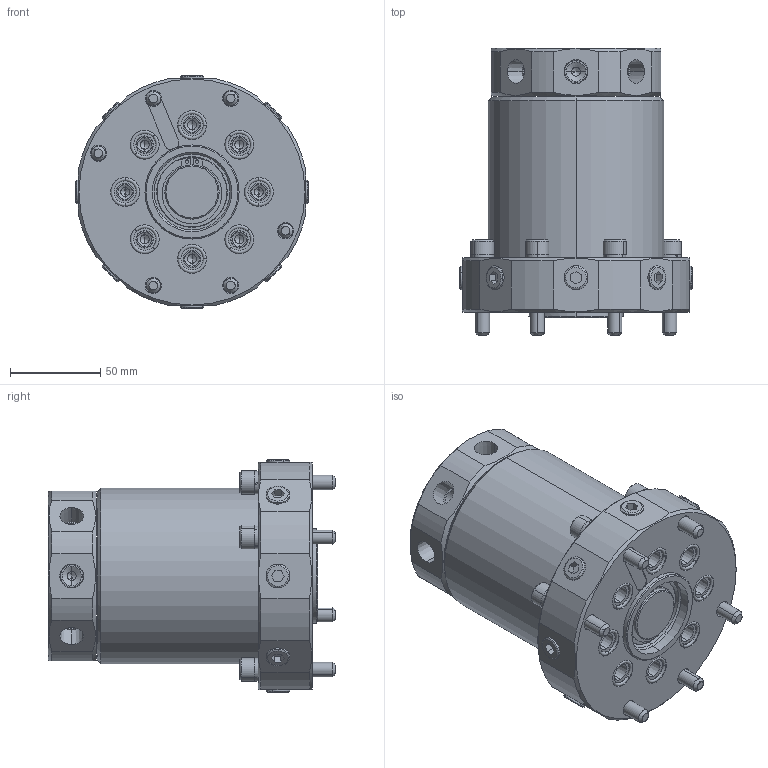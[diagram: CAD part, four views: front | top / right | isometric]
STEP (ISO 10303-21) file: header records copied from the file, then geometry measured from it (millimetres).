
FILE_DESCRIPTION((' '),'2;1');
FILE_NAME( 'TMC08-S-A.x_t.stp', '2024-09-03T08:16:51', (' '), ('--- Datakit www.datakit.com---'), ' Datakit CrossCadWare V2024.1 Dec 21 2023', 'Mastercam 2025', ' ');
FILE_SCHEMA(('AUTOMOTIVE_DESIGN { 1 0 10303 214 1 1 1 1 }'));
Length unit declared in the file: millimetre
Products named in the file (1): TMC08-S-A
Bounding box: 128.6 x 159 x 128.6 mm (x, y, z)
Volume: 1181393.2 mm3; surface area: 160561.7 mm2
Topology: 32 solids, 32 shells, 864 faces, 1912 edges, 1108 vertices
Faces by surface type: cone 312, cylinder 259, plane 257, torus 36
Entity records: 24662 total; most frequent: CARTESIAN_POINT 4509, DIRECTION 4470, ORIENTED_EDGE 3704, EDGE_CURVE 1852, AXIS2_PLACEMENT_3D 1845, VERTEX_POINT 1108, EDGE_LOOP 972, CIRCLE 892
